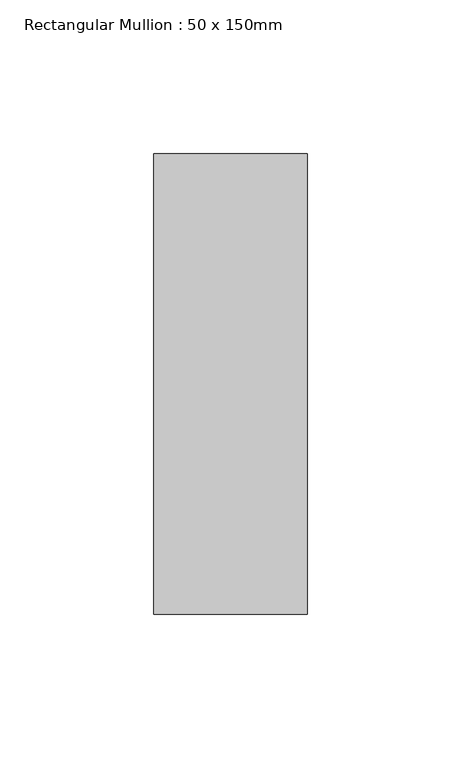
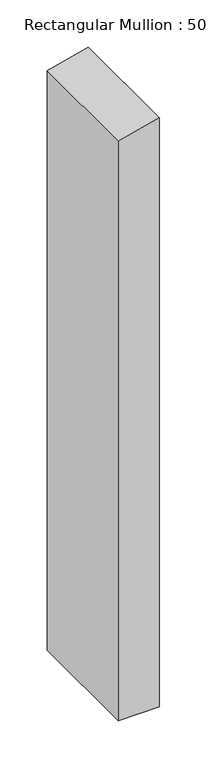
"""IFC4 building model written with IfcOpenShell, lengths in millimetres: member geometry, Rectangular Mullion : 50 x 150mm."""

from ifc_helpers import new_model, si_unit, frame, origin, place, context, project, spatial, polyline, outline, extrude, source, transform, mapped, element, save


def rectangular_mullion_50_x_150mm_7eb1723a(model_context):
    return source(origin(), model_context, "Body", "SweptSolid", [
        extrude(outline(polyline([(0.0, 0.0), (-12.4712764, -50.0), (-760.1349628, -50.0), (-759.9671379, 0.0), (0.0, 0.0)])), frame((0.0, -75.0, 0.0), z_axis=(0.0, 1.0, 0.0), x_axis=(0.0, 0.0, 1.0)), (0.0, 0.0, 1.0), 150.0),
    ])


if __name__ == "__main__":
    model = new_model("IFC4")
    model_context = context("Model", 3, world=origin())
    ifc_project = project(units=[si_unit("LENGTHUNIT", "METRE", prefix="MILLI")], contexts=[model_context])
    site = spatial("IfcSite", under=ifc_project)
    building = spatial("IfcBuilding", under=site)
    placement = place(None, origin())
    rectangular_mullion_50_x_150mm_shape = rectangular_mullion_50_x_150mm_7eb1723a(model_context)
    element("IfcMember", 1, ObjectType="Rectangular Mullion : 50 x 150mm", at=placement, inside=building, context=model_context, shape_type="MappedRepresentation", body=[
        mapped(rectangular_mullion_50_x_150mm_shape, transform((0.0, 0.0, 0.0), x_axis=(1.0, 0.0, 0.0), y_axis=(0.0, 1.0, 0.0), z_axis=(0.0, 0.0, 1.0))),
    ])
    save(model, "model.ifc")
